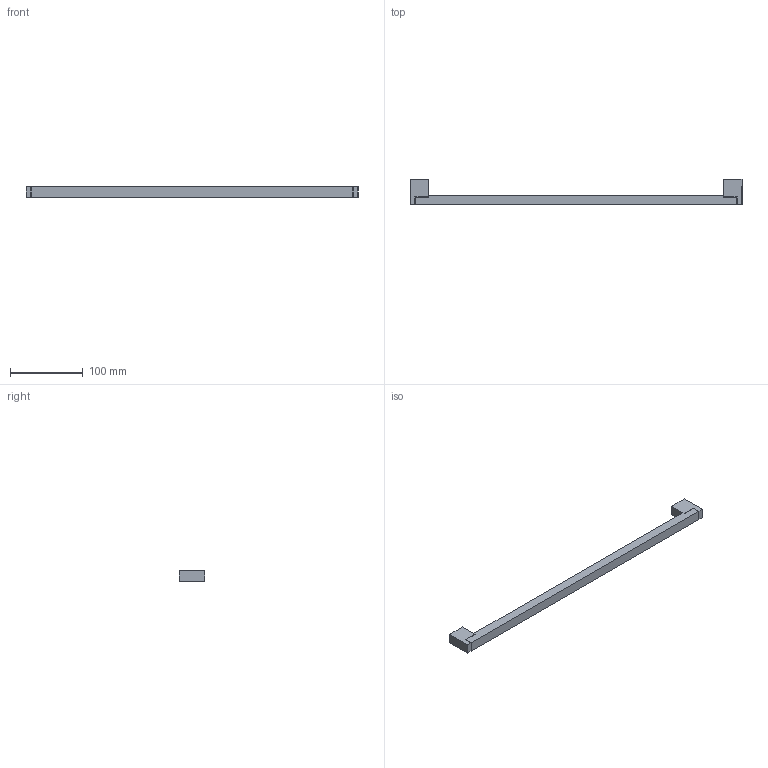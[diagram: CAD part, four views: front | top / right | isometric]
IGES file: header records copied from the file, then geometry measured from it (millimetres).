
Start section: Data from Parasolid IGES Translator 15.0.47, Copyright(c) 2006 Siemens P LM Software. All Rights Reserved.
Global section: file name: 9071751.igs; native system:  By UGS Corp.; preprocessor: XPlus GENERIC/IGES 3.0; author: Noname; organization: Noname; date: 20140122.181950; units: millimetre
Bounding box: 456 x 35 x 14 mm (x, y, z)
Surface area: 28681.4 mm2 (no closed solid volume)
Topology: 0 solids, 0 shells, 42 faces, 228 edges, 226 vertices
Faces by surface type: extrusion 40, revolution 2
